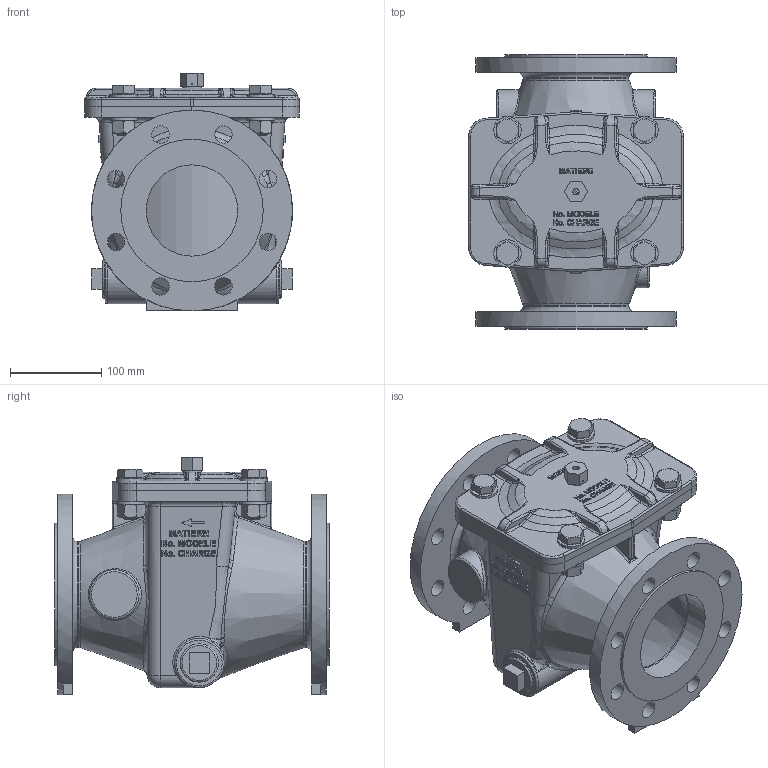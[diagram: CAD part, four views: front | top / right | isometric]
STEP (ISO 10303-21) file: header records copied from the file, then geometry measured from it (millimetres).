
FILE_DESCRIPTION((''),'2;1');
FILE_NAME('C:\_VaultWorkspace\FAB10016.stp','2011-02-18T11:26:48',('Sylvain Lauriou'),('CLA-VAL Europe'),'Autodesk Inventor 2011','Autodesk Inventor 2011','');
FILE_SCHEMA(('AUTOMOTIVE_DESIGN { 1 0 10303 214 1 1 1 1 }'));
Length unit declared in the file: millimetre
Products named in the file (15): FAB10016; 57960; corps10016_base; 57959; torique2; 57576-02; 57576-07; 57507; bouchon114; 57961; 57961Prot; 57961Tami; ISO 4017  M16 x 45; ISO 7089 16 - 140 HV; ISO 4032  M16
Assembly tree (28 placements, depth 3):
  FAB10016
    57960
    corps10016_base
    57959
    torique2
    57576-02
      57576-07
      57507
    bouchon114  x2
    57961
      57961Prot
      57961Tami
    ISO 4017  M16 x 45  x4
    ISO 7089 16 - 140 HV  x8
    ISO 4032  M16  x4
Bounding box: 235 x 300 x 260.5 mm (x, y, z)
Volume: 3365291.2 mm3; surface area: 845510.9 mm2
Topology: 26 solids, 26 shells, 1774 faces, 4572 edges, 2897 vertices
Faces by surface type: plane 895, bspline 380, cylinder 323, torus 109, cone 57, sphere 10
Full cylindrical faces by diameter (mm): 1.6 x1, 2.3 x1, 5.33 x4, 6.5 x1, 6.92 x1, 8 x1, 13.835 x4, 16 x4, 17 x8, 18 x8, 19 x16, 19.29 x1, 20.955 x1, 22.49 x4, 30 x8, 39.84 x2, 42 x2, 54 x3, 100 x2, 116 x2, 156 x2, 220 x2
Entity records: 59183 total; most frequent: CARTESIAN_POINT 21134, ORIENTED_EDGE 8316, DIRECTION 6641, EDGE_CURVE 4158, VERTEX_POINT 2694, VECTOR 2411, LINE 2411, AXIS2_PLACEMENT_3D 2115
